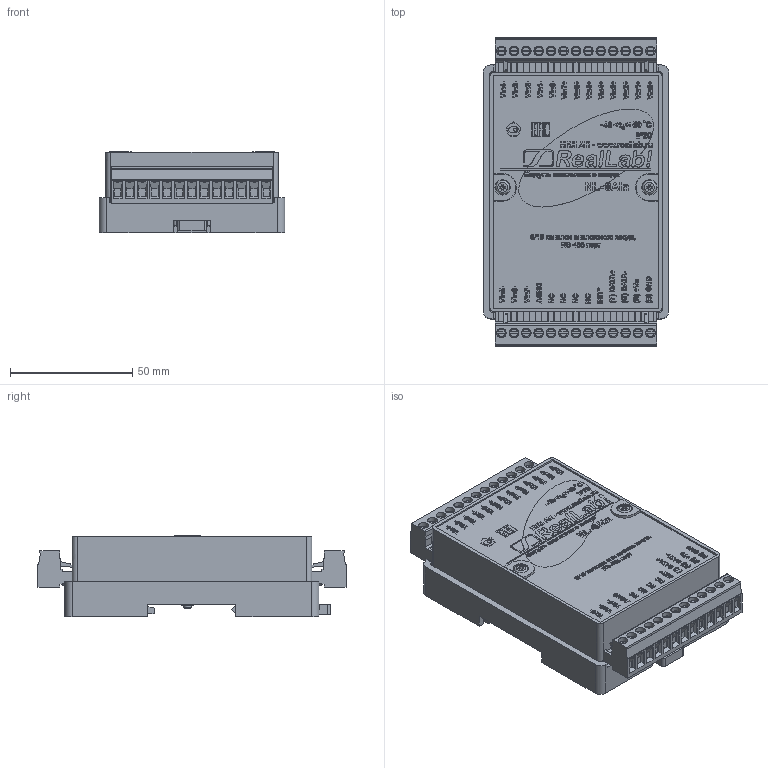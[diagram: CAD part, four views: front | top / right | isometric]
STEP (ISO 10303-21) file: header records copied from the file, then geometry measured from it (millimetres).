
FILE_DESCRIPTION(('STEP AP214'), '1');
FILE_NAME('沓劌錪', '', ('UNSPECIFIED'), ('UNSPECIFIED'), 'C3D Converter', 'C3D Toolkit', '');
FILE_SCHEMA(('AUTOMOTIVE_DESIGN { 1 0 10303 214 3 1 1}'));
Length unit declared in the file: millimetre
Bounding box: 75.8 x 126 x 33.5 mm (x, y, z)
Volume: 85396.6 mm3; surface area: 90267.2 mm2
Topology: 2 solids, 2 shells, 5927 faces, 16032 edges, 10579 vertices
Faces by surface type: plane 3159, extrusion 2101, cylinder 480, torus 118, cone 68, bspline 1
Full cylindrical faces by diameter (mm): 1.4 x26, 2.5 x4, 3 x30, 3.38 x2, 3.6 x4, 3.95 x26, 4 x2, 5.6 x2, 6.3 x2, 6.4 x2, 8 x2
Entity records: 257762 total; most frequent: CARTESIAN_POINT 70143, ORIENTED_EDGE 31694, DIRECTION 21998, EDGE_CURVE 15847, VECTOR 12014, VERTEX_POINT 10577, LINE 9913, B_SPLINE_CURVE_WITH_KNOTS 6835
